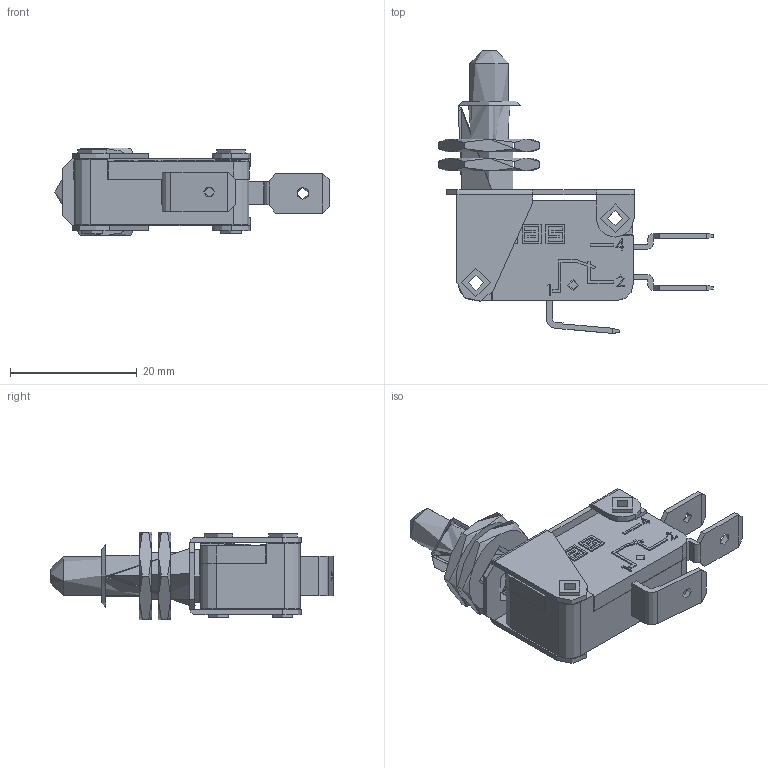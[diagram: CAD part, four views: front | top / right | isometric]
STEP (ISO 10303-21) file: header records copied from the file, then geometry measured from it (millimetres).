
FILE_DESCRIPTION((''),'2; 1');
FILE_NAME('','2026-03-27T16:21:46',(''),(''),'CST STEP Exporter V1.0','Unknown','');
FILE_SCHEMA(('CONFIG_CONTROL_DESIGN'));
Length unit declared in the file: metre
Assembly tree (16 placements, depth 2):
  (unnamed)
    (unnamed)
    (unnamed)
    (unnamed)
    (unnamed)
    (unnamed)
    (unnamed)
    (unnamed)
    (unnamed)
    (unnamed)
    (unnamed)
    (unnamed)
    (unnamed)
    (unnamed)
    (unnamed)
    (unnamed)
    (unnamed)
Bounding box: 43.37 x 44.69 x 13.8 mm (x, y, z)
Topology: 0 solids, 19 shells, 305 faces, 1085 edges, 805 vertices
Faces by surface type: plane 223, cylinder 45, cone 25, extrusion 6, bspline 5, torus 1
Full cylindrical faces by diameter (mm): 1.5 x1, 1.7 x1, 1.75 x1, 1.95 x2, 2.4 x2, 3.2 x2, 3.4 x2, 4.5 x2, 6.3 x1, 6.6 x1, 7.5 x1, 8.3 x1, 8.6 x1, 9.85 x1
Entity records: 16440 total; most frequent: CARTESIAN_POINT 4867, ORIENTED_EDGE 1734, DIRECTION 1696, EDGE_CURVE 1056, VERTEX_POINT 794, VECTOR 770, LINE 764, AXIS2_PLACEMENT_3D 463
